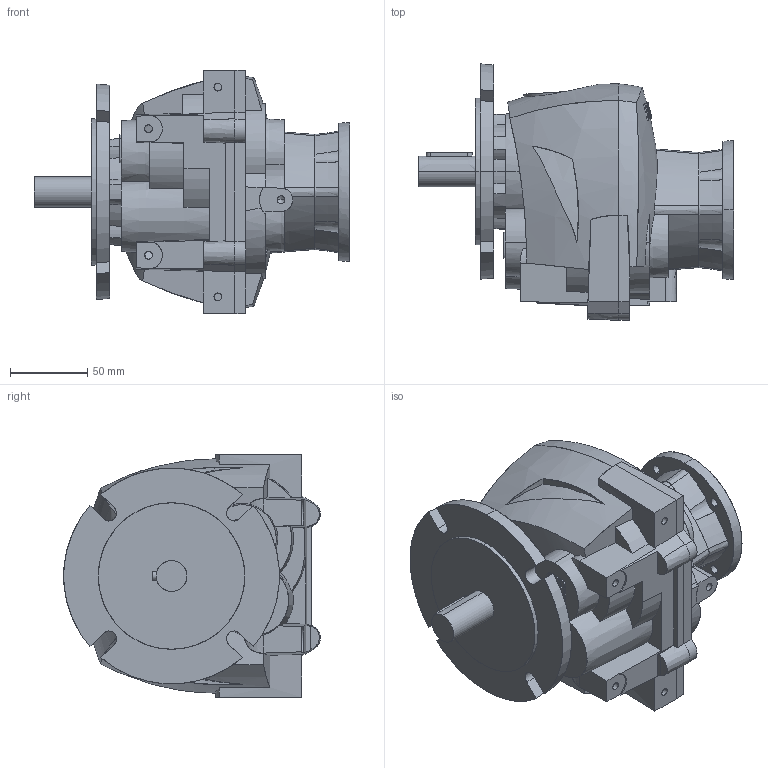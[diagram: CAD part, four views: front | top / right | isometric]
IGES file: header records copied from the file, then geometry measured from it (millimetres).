
Start section: SolidWorks IGES file using analytic representation for surfaces
Global section: file name: C:\Users\Tahir Momin\Desktop\RBA2_UNV_OFL_FSW_OPTION-5\RBA2_IFL63B4_OFL140_OSH20L40.IGS; native system: SolidWorks 2012; preprocessor: SolidWorks 2012; author: Tahir Momin; date: 130207.154827; units: millimetre
Bounding box: 204.5 x 166.5 x 158 mm (x, y, z)
Surface area: 139179.7 mm2 (no closed solid volume)
Topology: 0 solids, 0 shells, 503 faces, 4929 edges, 4927 vertices
Faces by surface type: bspline 307, revolution 196
